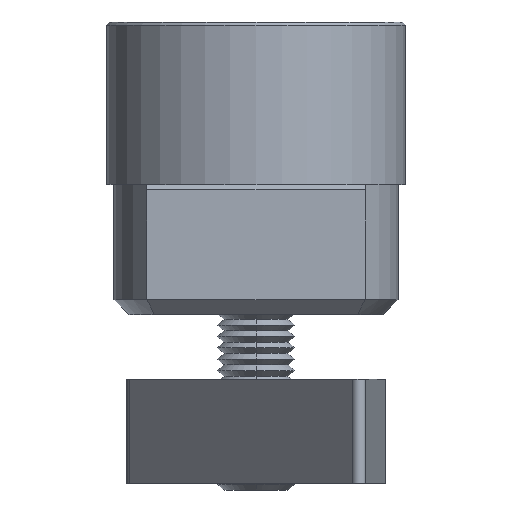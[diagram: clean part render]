
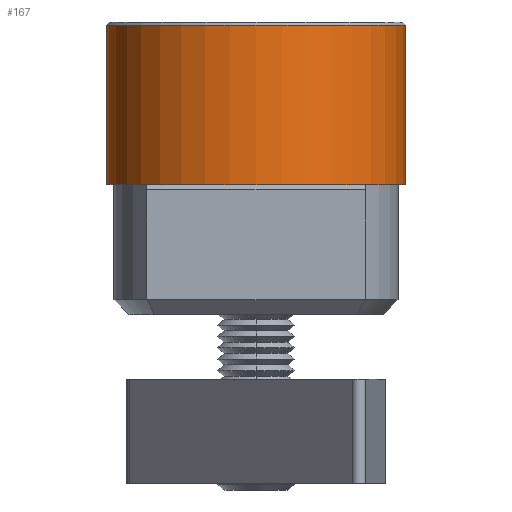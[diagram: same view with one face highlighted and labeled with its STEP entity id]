
A CAD part, front view. The second image highlights one B-rep face of the part: STEP entity #167.
In plain terms, the highlighted cylindrical face has radius 23 mm (diameter 46 mm), a partial arc.
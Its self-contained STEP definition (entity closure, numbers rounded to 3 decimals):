
#58 = ORIENTED_EDGE ( 'NONE', *, *, #351, .T. ) ;
#123 = ORIENTED_EDGE ( 'NONE', *, *, #356, .T. ) ;
#124 = EDGE_CURVE ( 'NONE', #624, #627, #1599, .T. ) ;
#125 = ORIENTED_EDGE ( 'NONE', *, *, #124, .T. ) ;
#126 = ORIENTED_EDGE ( 'NONE', *, *, #696, .F. ) ;
#127 = EDGE_LOOP ( 'NONE', ( #126, #125, #123, #58 ) ) ;
#167 = ADVANCED_FACE ( 'NONE', ( #1655 ), #1654, .T. ) ;
#351 = EDGE_CURVE ( 'NONE', #357, #697, #1977, .T. ) ;
#356 = EDGE_CURVE ( 'NONE', #627, #357, #1965, .T. ) ;
#357 = VERTEX_POINT ( 'NONE', #1958 ) ;
#624 = VERTEX_POINT ( 'NONE', #2473 ) ;
#627 = VERTEX_POINT ( 'NONE', #2467 ) ;
#696 = EDGE_CURVE ( 'NONE', #624, #697, #2547, .T. ) ;
#697 = VERTEX_POINT ( 'NONE', #2604 ) ;
#1595 = DIRECTION ( 'NONE',  ( 1., 0., 0. ) ) ;
#1596 = DIRECTION ( 'NONE',  ( 0., 0., -1. ) ) ;
#1597 = CARTESIAN_POINT ( 'NONE',  ( 0., 0., 24.5 ) ) ;
#1598 = AXIS2_PLACEMENT_3D ( 'NONE', #1597, #1596, #1595 ) ;
#1599 = CIRCLE ( 'NONE', #1598, 23. ) ;
#1650 = DIRECTION ( 'NONE',  ( -1., 0., 0. ) ) ;
#1651 = DIRECTION ( 'NONE',  ( 0., 0., -1. ) ) ;
#1652 = AXIS2_PLACEMENT_3D ( 'NONE', #1653, #1651, #1650 ) ;
#1653 = CARTESIAN_POINT ( 'NONE',  ( 0., 0., 25. ) ) ;
#1654 = CYLINDRICAL_SURFACE ( 'NONE', #1652, 23. ) ;
#1655 = FACE_OUTER_BOUND ( 'NONE', #127, .T. ) ;
#1958 = CARTESIAN_POINT ( 'NONE',  ( -23., 0., 0. ) ) ;
#1959 = DIRECTION ( 'NONE',  ( 0., 0., -1. ) ) ;
#1960 = VECTOR ( 'NONE', #1959, 1000. ) ;
#1961 = CARTESIAN_POINT ( 'NONE',  ( -23., 0., 25. ) ) ;
#1965 = LINE ( 'NONE', #1961, #1960 ) ;
#1970 = DIRECTION ( 'NONE',  ( 1., 0., 0. ) ) ;
#1971 = DIRECTION ( 'NONE',  ( 0., 0., 1. ) ) ;
#1972 = CARTESIAN_POINT ( 'NONE',  ( 0., 0., 0. ) ) ;
#1973 = AXIS2_PLACEMENT_3D ( 'NONE', #1972, #1971, #1970 ) ;
#1977 = CIRCLE ( 'NONE', #1973, 23. ) ;
#2467 = CARTESIAN_POINT ( 'NONE',  ( -23., 0., 24.5 ) ) ;
#2473 = CARTESIAN_POINT ( 'NONE',  ( 23., 0., 24.5 ) ) ;
#2545 = VECTOR ( 'NONE', #2605, 1000. ) ;
#2546 = CARTESIAN_POINT ( 'NONE',  ( 23., 0., 25. ) ) ;
#2547 = LINE ( 'NONE', #2546, #2545 ) ;
#2604 = CARTESIAN_POINT ( 'NONE',  ( 23., 0., 0. ) ) ;
#2605 = DIRECTION ( 'NONE',  ( 0., 0., -1. ) ) ;
